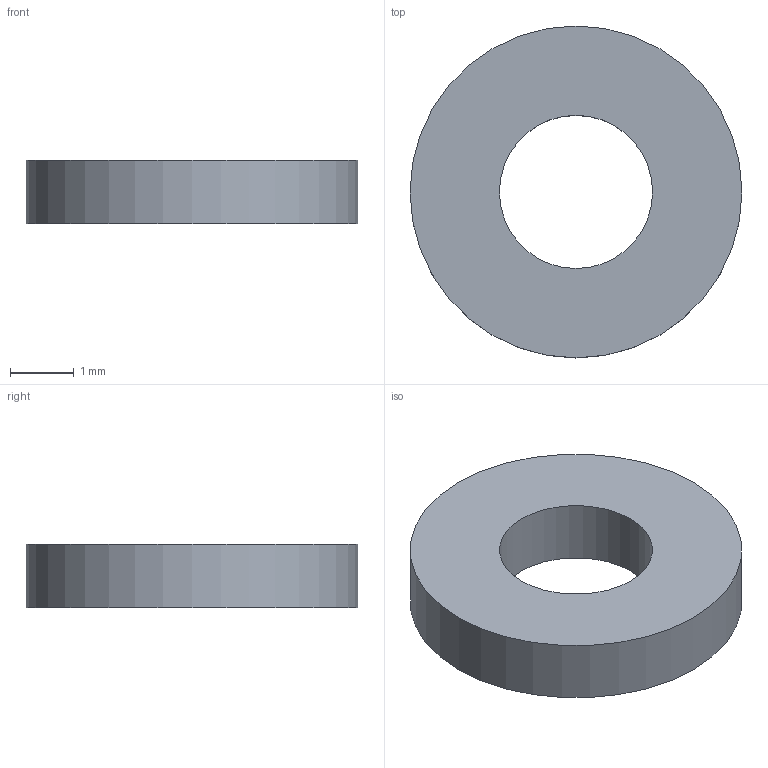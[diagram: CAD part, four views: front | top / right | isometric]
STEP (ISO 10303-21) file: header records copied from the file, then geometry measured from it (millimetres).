
FILE_DESCRIPTION(('FreeCAD Model'),'2;1');
FILE_NAME('Open CASCADE Shape Model','2026-10-20T15:18:15',('FreeCAD'),( 'FreeCAD'),'Open CASCADE STEP processor 7.8','FreeCAD','Unknown');
FILE_SCHEMA(('AUTOMOTIVE_DESIGN { 1 0 10303 214 1 1 1 1 }'));
Length unit declared in the file: millimetre
Products named in the file (1): Open CASCADE STEP translator 7.8 5
Bounding box: 5.2 x 5.2 x 1 mm (x, y, z)
Volume: 16.7 mm3; surface area: 57.3 mm2
Topology: 1 solids, 1 shells, 4 faces, 6 edges, 4 vertices
Faces by surface type: cylinder 2, plane 2
Full cylindrical faces by diameter (mm): 2.4 x1, 5.2 x1
Entity records: 108 total; most frequent: DIRECTION 20, CARTESIAN_POINT 15, ORIENTED_EDGE 12, AXIS2_PLACEMENT_3D 9, FACE_BOUND 6, EDGE_LOOP 6, EDGE_CURVE 6, ADVANCED_FACE 4
